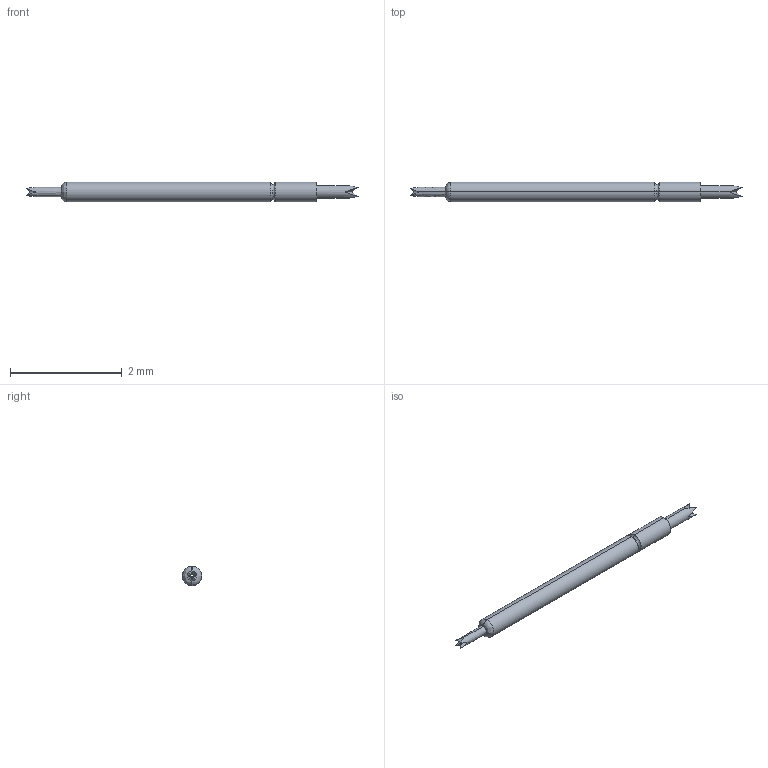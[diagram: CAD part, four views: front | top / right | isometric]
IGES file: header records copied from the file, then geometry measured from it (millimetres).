
Start section: SolidWorks IGES file using analytic representation for surfaces
Global section: file name: Z:\probe solid model mockups\Solidworks models\IGES Files\CSP5-18 IGES files\CSP5-18LL.IGS; native system: SolidWorks 2006 by SolidWorks Corporation; preprocessor: SolidWorks 2006 by SolidWorks Corporation; author: tsakatani; date: 080108.142640; units: inch
Bounding box: 5.94 x 0.35 x 0.35 mm (x, y, z)
Surface area: 6.1 mm2 (no closed solid volume)
Topology: 0 solids, 0 shells, 31 faces, 180 edges, 180 vertices
Faces by surface type: bspline 23, revolution 8
